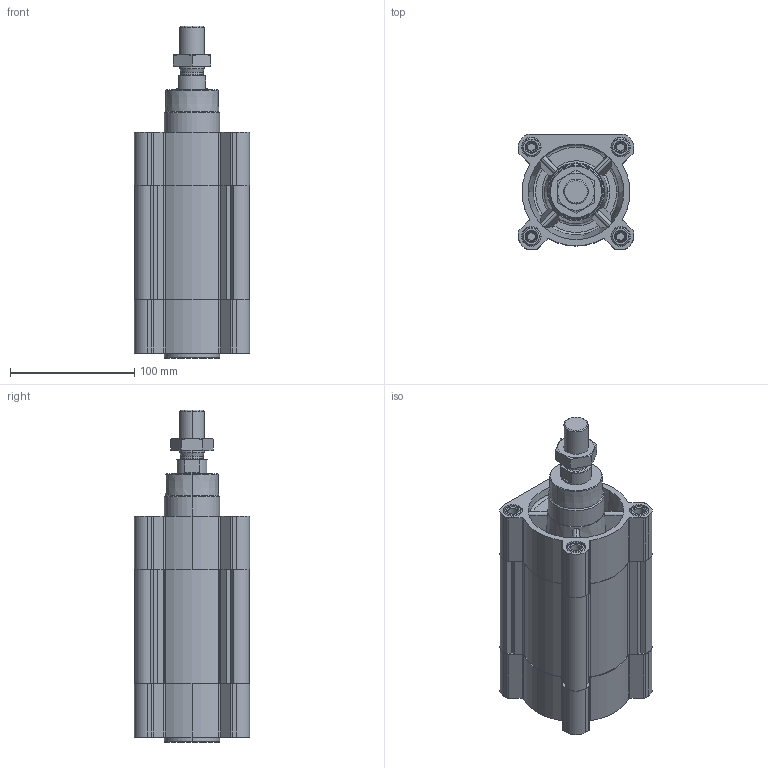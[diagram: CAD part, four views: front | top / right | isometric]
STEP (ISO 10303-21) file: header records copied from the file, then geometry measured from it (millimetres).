
FILE_DESCRIPTION (( 'STEP AP203' ), '1' );
FILE_NAME ('CPME80-50.STEP', '2022-11-03T19:23:33', ( '' ), ( '' ), 'SwSTEP 2.0', 'SolidWorks 2019', '' );
FILE_SCHEMA (( 'CONFIG_CONTROL_DESIGN' ));
Length unit declared in the file: millimetre
Products named in the file (1): CPME80-50
Bounding box: 93 x 93 x 267.6 mm (x, y, z)
Volume: 1019140.4 mm3; surface area: 217737.3 mm2
Topology: 3 solids, 3 shells, 533 faces, 1359 edges, 870 vertices
Faces by surface type: plane 207, cylinder 200, cone 98, torus 28
Entity records: 18683 total; most frequent: CARTESIAN_POINT 5639, DIRECTION 2751, ORIENTED_EDGE 2718, EDGE_CURVE 1359, AXIS2_PLACEMENT_3D 1049, VERTEX_POINT 870, VECTOR 653, LINE 653
